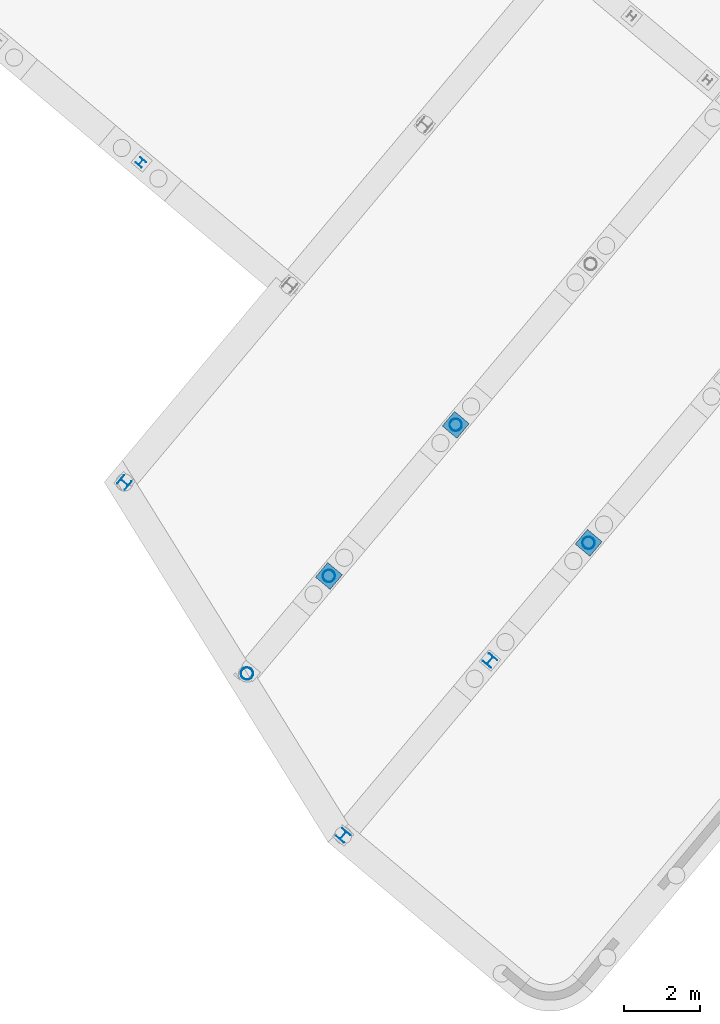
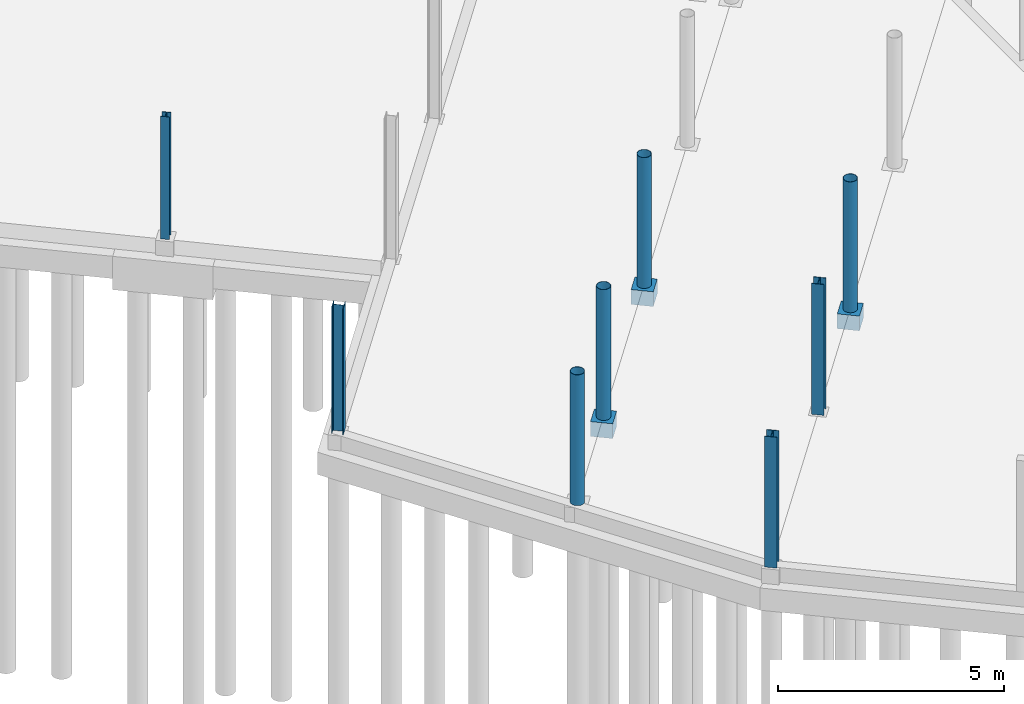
# One storey, part 5 of 26: 11 columns.
"""IFC2X3 building model written with IfcOpenShell, lengths in millimetres."""

from ifc_helpers import new_model, entity, si_unit, converted_unit, derived_unit, direction, frame, frame_2d, origin, origin_2d_with_axis, place, context, subcontext, project, spatial, rectangle, hollow_circle, i_section, extrude, source, transform, mapped, material, type_object, type_shapes, element, save


model = new_model("IFC2X3")

# Units and contexts
model_context = context("Model", 3, precision=0.01, world=origin(), true_north=direction((6.123031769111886e-17, 1.0)))
body_context = subcontext(model_context, "Body", "Model", "MODEL_VIEW")
ifc_project = project(units=[si_unit("LENGTHUNIT", "METRE", prefix="MILLI"), si_unit("AREAUNIT", "SQUARE_METRE"), si_unit("VOLUMEUNIT", "CUBIC_METRE"), derived_unit("MASSDENSITYUNIT", [(si_unit("MASSUNIT", "GRAM", prefix="KILO"), 1), (si_unit("LENGTHUNIT", "METRE"), -3)]), si_unit("MASSUNIT", "GRAM", prefix="KILO"), converted_unit("PLANEANGLEUNIT", "DEGREE", entity("IfcPlaneAngleMeasure", 0.017453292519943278), si_unit("PLANEANGLEUNIT", "RADIAN"), dimensions=[0, 0, 0, 0, 0, 0, 0])], contexts=[model_context])

# Site, building, storey
site_placement = place(None, origin())
site = spatial("IfcSite", under=ifc_project, at=site_placement, Name="Default", CompositionType="ELEMENT")
building_placement = place(site_placement, origin())
building = spatial("IfcBuilding", under=site, at=building_placement, Name="AT constructie", CompositionType="ELEMENT")
storey_placement = place(building_placement, origin())
storey = spatial("IfcBuildingStorey", under=building, at=storey_placement, Name="00 begane grond", CompositionType="ELEMENT", Elevation=-1.0828671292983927e-12)

# Columns
ifc_material_1 = material(Name="h2_staal_S355")
column_type_1 = type_object("IfcColumnType", Name="kolom_gen_ø323.9x8", PredefinedType="COLUMN", material=ifc_material_1)
shared_shape_1 = source(origin(), body_context, "Body", "SweptSolid", [
    extrude(hollow_circle(Radius=161.95, WallThickness=8.0, at=frame_2d((-1.6590486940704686e-12, -1.3921071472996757e-12), x_axis=(1.0, 0.0))), frame((32989.80457595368, 13555.601915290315, -50.0), z_axis=(0.0, 0.0, 1.0), x_axis=(-0.6427876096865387, -0.7660444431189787, 0.0)), (0.0, 0.0, 1.0), 3528.9999999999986),
])
type_shapes(column_type_1, [shared_shape_1])
column_1_placement = place(storey_placement, origin())
element("IfcColumn", 1, at=column_1_placement, inside=storey, type_object=column_type_1, material=ifc_material_1, Name="NLRS_28_SC_TLB_kolom buis_gen_AT:kolom_gen_ø323.9x8", ObjectType="NLRS_28_SC_TLB_kolom buis_gen_AT:kolom_gen_ø323.9x8", context=body_context, shape_type="MappedRepresentation", body=[
    mapped(shared_shape_1, transform((0.0, 0.0, 0.0), scale=1.0)),
])
column_type_2 = type_object("IfcColumnType", Name="kolom_gen_HEA280", PredefinedType="COLUMN", material=ifc_material_1)
shared_shape_2 = source(origin(), body_context, "Body", "SweptSolid", [
    extrude(i_section(OverallWidth=279.9999999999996, OverallDepth=269.99999999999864, WebThickness=8.000000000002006, FlangeThickness=13.000000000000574, FilletRadius=24.0, at=origin_2d_with_axis()), frame((30405.194609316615, 10475.383702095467, -50.0), z_axis=(0.0, 0.0, 1.0), x_axis=(0.766044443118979, -0.6427876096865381, 0.0)), (0.0, 0.0, 1.0), 3528.999999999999),
])
type_shapes(column_type_2, [shared_shape_2])
column_2_placement = place(storey_placement, origin())
element("IfcColumn", 2, at=column_2_placement, inside=storey, type_object=column_type_2, material=ifc_material_1, Name="NLRS_28_SC_TLB_kolom HEA_gen_AT:kolom_gen_HEA280", ObjectType="NLRS_28_SC_TLB_kolom HEA_gen_AT:kolom_gen_HEA280", context=body_context, shape_type="MappedRepresentation", body=[
    mapped(shared_shape_2, transform((0.0, 0.0, 0.0), scale=1.0)),
])
column_type_3 = type_object("IfcColumnType", Name="kolom_gen_HEA280", PredefinedType="COLUMN", material=ifc_material_1)
shared_shape_3 = source(origin(), body_context, "Body", "SweptSolid", [
    extrude(i_section(OverallWidth=280.0000000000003, OverallDepth=269.9999999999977, WebThickness=8.000000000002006, FlangeThickness=13.000000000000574, FilletRadius=24.0, at=frame_2d((3.410605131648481e-13, -4.263256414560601e-13), x_axis=(1.0, 0.0))), frame((26562.89266050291, 5896.306550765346, -50.0), z_axis=(0.0, 0.0, 1.0), x_axis=(0.766044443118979, -0.6427876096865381, 0.0)), (0.0, 0.0, 1.0), 3528.999999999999),
])
type_shapes(column_type_3, [shared_shape_3])
column_3_placement = place(storey_placement, origin())
element("IfcColumn", 3, at=column_3_placement, inside=storey, type_object=column_type_3, material=ifc_material_1, Name="NLRS_28_SC_TLB_kolom HEA_gen_AT:kolom_gen_HEA280", ObjectType="NLRS_28_SC_TLB_kolom HEA_gen_AT:kolom_gen_HEA280", context=body_context, shape_type="MappedRepresentation", body=[
    mapped(shared_shape_3, transform((0.0, 0.0, 0.0), scale=1.0)),
])
column_type_4 = type_object("IfcColumnType", Name="kolom_gen_HEA280", PredefinedType="COLUMN", material=ifc_material_1)
shared_shape_4 = source(origin(), body_context, "Body", "SweptSolid", [
    extrude(i_section(OverallWidth=280.00000000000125, OverallDepth=270.00000000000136, WebThickness=8.000000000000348, FlangeThickness=13.000000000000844, FilletRadius=24.0, at=frame_2d((1.6484591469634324e-12, 1.3926637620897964e-12), x_axis=(1.0, 0.0))), frame((20837.9974768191, 15136.490660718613, -50.0), z_axis=(0.0, 0.0, 1.0), x_axis=(-0.6427876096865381, -0.766044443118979, 0.0)), (0.0, 0.0, 1.0), 3404.000000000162),
])
type_shapes(column_type_4, [shared_shape_4])
column_4_placement = place(storey_placement, origin())
element("IfcColumn", 4, at=column_4_placement, inside=storey, type_object=column_type_4, material=ifc_material_1, Name="NLRS_28_SC_TLB_kolom HEA_gen_AT:kolom_gen_HEA280", ObjectType="NLRS_28_SC_TLB_kolom HEA_gen_AT:kolom_gen_HEA280", context=body_context, shape_type="MappedRepresentation", body=[
    mapped(shared_shape_4, transform((0.0, 0.0, 0.0), scale=1.0)),
])
column_type_5 = type_object("IfcColumnType", Name="kolom_gen_ø323.9x8", PredefinedType="COLUMN", material=ifc_material_1)
shared_shape_5 = source(origin(), body_context, "Body", "SweptSolid", [
    extrude(hollow_circle(Radius=161.95, WallThickness=8.0, at=origin_2d_with_axis()), frame((29511.26030470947, 16644.150077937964, -50.0), z_axis=(0.0, 0.0, 1.0), x_axis=(0.642787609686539, 0.7660444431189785, 0.0)), (0.0, 0.0, 1.0), 3528.9999999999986),
])
type_shapes(column_type_5, [shared_shape_5])
column_5_placement = place(storey_placement, origin())
element("IfcColumn", 5, at=column_5_placement, inside=storey, type_object=column_type_5, material=ifc_material_1, Name="NLRS_28_SC_TLB_kolom buis_gen_AT:kolom_gen_ø323.9x8", ObjectType="NLRS_28_SC_TLB_kolom buis_gen_AT:kolom_gen_ø323.9x8", context=body_context, shape_type="MappedRepresentation", body=[
    mapped(shared_shape_5, transform((0.0, 0.0, 0.0), scale=1.0)),
])
column_type_6 = type_object("IfcColumnType", Name="kolom_gen_HEA200", PredefinedType="COLUMN", material=ifc_material_1)
shared_shape_6 = source(origin(), body_context, "Body", "SweptSolid", [
    extrude(i_section(OverallWidth=199.99999999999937, OverallDepth=190.0000000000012, WebThickness=6.500000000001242, FlangeThickness=9.999999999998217, FilletRadius=18.0, at=frame_2d((-3.318234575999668e-12, -2.7782220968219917e-12), x_axis=(1.0, 0.0))), frame((21269.105863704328, 23514.44957436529, -50.0), z_axis=(0.0, 0.0, 1.0), x_axis=(0.7660444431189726, -0.6427876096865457, 0.0)), (0.0, 0.0, 1.0), 3307.9999999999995),
])
type_shapes(column_type_6, [shared_shape_6])
column_6_placement = place(storey_placement, origin())
element("IfcColumn", 6, at=column_6_placement, inside=storey, type_object=column_type_6, material=ifc_material_1, Name="NLRS_28_SC_TLB_kolom HEA_gen_AT:kolom_gen_HEA200", ObjectType="NLRS_28_SC_TLB_kolom HEA_gen_AT:kolom_gen_HEA200", context=body_context, shape_type="MappedRepresentation", body=[
    mapped(shared_shape_6, transform((0.0, 0.0, 0.0), scale=1.0)),
])
column_type_7 = type_object("IfcColumnType", Name="kolom_gen_ø323.9x8", PredefinedType="COLUMN", material=ifc_material_1)
shared_shape_7 = source(origin(), body_context, "Body", "SweptSolid", [
    extrude(hollow_circle(Radius=161.95, WallThickness=8.0, at=frame_2d((-1.6590486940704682e-12, -1.3921071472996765e-12), x_axis=(1.0, 0.0))), frame((24047.56562237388, 10132.77231142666, -50.0), z_axis=(0.0, 0.0, 1.0), x_axis=(0.642787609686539, 0.7660444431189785, 0.0)), (0.0, 0.0, 1.0), 3528.9999999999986),
])
type_shapes(column_type_7, [shared_shape_7])
column_7_placement = place(storey_placement, origin())
element("IfcColumn", 7, at=column_7_placement, inside=storey, type_object=column_type_7, material=ifc_material_1, Name="NLRS_28_SC_TLB_kolom buis_gen_AT:kolom_gen_ø323.9x8", ObjectType="NLRS_28_SC_TLB_kolom buis_gen_AT:kolom_gen_ø323.9x8", context=body_context, shape_type="MappedRepresentation", body=[
    mapped(shared_shape_7, transform((0.0, 0.0, 0.0), scale=1.0)),
])
column_type_8 = type_object("IfcColumnType", Name="kolom_gen_ø323.9x8", PredefinedType="COLUMN", material=ifc_material_1)
shared_shape_8 = source(origin(), body_context, "Body", "SweptSolid", [
    extrude(hollow_circle(Radius=161.95, WallThickness=8.0, at=frame_2d((-1.6590486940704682e-12, -1.3921071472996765e-12), x_axis=(1.0, 0.0))), frame((26191.262300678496, 12687.530529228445, -50.0), z_axis=(0.0, 0.0, 1.0), x_axis=(0.642787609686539, 0.7660444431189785, 0.0)), (0.0, 0.0, 1.0), 3528.9999999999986),
])
type_shapes(column_type_8, [shared_shape_8])
column_8_placement = place(storey_placement, origin())
element("IfcColumn", 8, at=column_8_placement, inside=storey, type_object=column_type_8, material=ifc_material_1, Name="NLRS_28_SC_TLB_kolom buis_gen_AT:kolom_gen_ø323.9x8", ObjectType="NLRS_28_SC_TLB_kolom buis_gen_AT:kolom_gen_ø323.9x8", context=body_context, shape_type="MappedRepresentation", body=[
    mapped(shared_shape_8, transform((0.0, 0.0, 0.0), scale=1.0)),
])
ifc_material_2 = material(Name="f2_beton ihwg_gen")
column_type_9 = type_object("IfcColumnType", Name="opstorting vierkant_gen_lxb 500x500", PredefinedType="COLUMN", material=ifc_material_2)
shared_shape_9 = source(origin(), body_context, "Body", "SweptSolid", [
    extrude(rectangle(XDim=499.9999999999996, YDim=499.9999999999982, at=frame_2d((-7.105427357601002e-13, 8.242295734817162e-13), x_axis=(1.0, 0.0))), frame((32989.804575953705, 13555.601915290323, -450.0), z_axis=(0.0, 0.0, 1.0), x_axis=(-0.7660444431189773, 0.6427876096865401, 0.0)), (0.0, 0.0, 1.0), 399.99999999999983),
])
type_shapes(column_type_9, [shared_shape_9])
column_9_placement = place(storey_placement, origin())
element("IfcColumn", 9, at=column_9_placement, inside=storey, type_object=column_type_9, material=ifc_material_2, Name="NLRS_16_SC_TLB_opstorting beton_gen_AT:opstorting vierkant_gen_lxb 500x500", ObjectType="NLRS_16_SC_TLB_opstorting beton_gen_AT:opstorting vierkant_gen_lxb 500x500", context=body_context, shape_type="MappedRepresentation", body=[
    mapped(shared_shape_9, transform((0.0, 0.0, 0.0), scale=1.0)),
])
column_type_10 = type_object("IfcColumnType", Name="opstorting vierkant_gen_lxb 500x500", PredefinedType="COLUMN", material=ifc_material_2)
shared_shape_10 = source(origin(), body_context, "Body", "SweptSolid", [
    extrude(rectangle(XDim=499.99999999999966, YDim=499.9999999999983, at=frame_2d((-1.2889245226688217e-11, 1.8900436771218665e-12), x_axis=(1.0, 0.0))), frame((26191.26230067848, 12687.530529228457, -450.0), z_axis=(0.0, 0.0, 1.0), x_axis=(-0.7660444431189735, 0.6427876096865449, 0.0)), (0.0, 0.0, 1.0), 399.99999999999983),
])
type_shapes(column_type_10, [shared_shape_10])
column_10_placement = place(storey_placement, origin())
element("IfcColumn", 10, at=column_10_placement, inside=storey, type_object=column_type_10, material=ifc_material_2, Name="NLRS_16_SC_TLB_opstorting beton_gen_AT:opstorting vierkant_gen_lxb 500x500", ObjectType="NLRS_16_SC_TLB_opstorting beton_gen_AT:opstorting vierkant_gen_lxb 500x500", context=body_context, shape_type="MappedRepresentation", body=[
    mapped(shared_shape_10, transform((0.0, 0.0, 0.0), scale=1.0)),
])
column_type_11 = type_object("IfcColumnType", Name="opstorting vierkant_gen_lxb 500x500", PredefinedType="COLUMN", material=ifc_material_2)
shared_shape_11 = source(origin(), body_context, "Body", "SweptSolid", [
    extrude(rectangle(XDim=499.9999999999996, YDim=499.9999999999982, at=frame_2d((-7.105427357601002e-13, 8.242295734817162e-13), x_axis=(1.0, 0.0))), frame((29511.26030470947, 16644.150077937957, -450.0), z_axis=(0.0, 0.0, 1.0), x_axis=(-0.7660444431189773, 0.6427876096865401, 0.0)), (0.0, 0.0, 1.0), 399.99999999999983),
])
type_shapes(column_type_11, [shared_shape_11])
column_11_placement = place(storey_placement, origin())
element("IfcColumn", 11, at=column_11_placement, inside=storey, type_object=column_type_11, material=ifc_material_2, Name="NLRS_16_SC_TLB_opstorting beton_gen_AT:opstorting vierkant_gen_lxb 500x500", ObjectType="NLRS_16_SC_TLB_opstorting beton_gen_AT:opstorting vierkant_gen_lxb 500x500", context=body_context, shape_type="MappedRepresentation", body=[
    mapped(shared_shape_11, transform((0.0, 0.0, 0.0), scale=1.0)),
])

save(model, "model.ifc")
